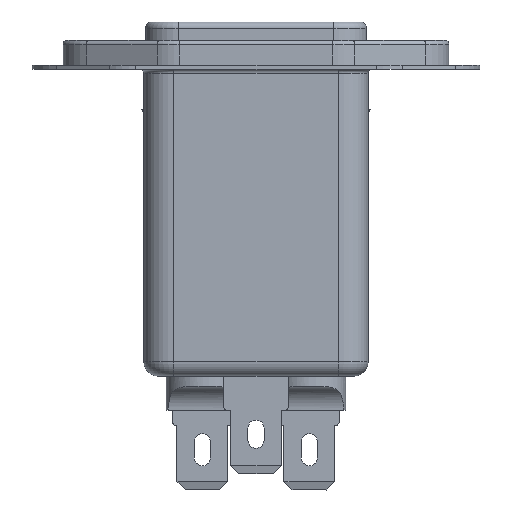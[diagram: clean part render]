
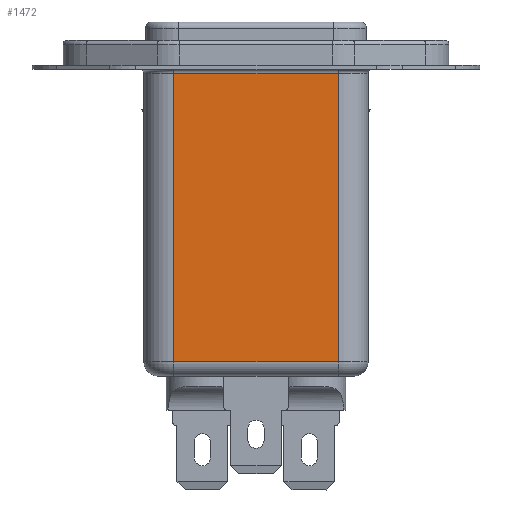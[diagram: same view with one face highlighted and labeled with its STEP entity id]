
A CAD part, left-side view. The second image highlights one B-rep face of the part: STEP entity #1472.
In plain terms, the highlighted planar face has unit normal (-1, 0, 0).
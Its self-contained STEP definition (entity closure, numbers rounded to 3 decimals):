
#1277=CARTESIAN_POINT('',(25.1,53.292,47.8));
#1278=VERTEX_POINT('',#1277);
#1343=CARTESIAN_POINT('',(25.1,32.792,47.8));
#1344=VERTEX_POINT('',#1343);
#1361=CARTESIAN_POINT('',(25.1,53.292,47.8));
#1362=DIRECTION('',(0.0,-1.0,0.0));
#1363=VECTOR('',#1362,20.5);
#1364=LINE('',#1361,#1363);
#1365=EDGE_CURVE('',#1278,#1344,#1364,.T.);
#1442=CARTESIAN_POINT('',(25.1,53.292,48.8));
#1443=DIRECTION('',(-1.0,0.0,0.0));
#1444=DIRECTION('',(0.0,1.0,0.0));
#1445=AXIS2_PLACEMENT_3D('',#1442,#1443,#1444);
#1446=PLANE('',#1445);
#1447=ORIENTED_EDGE('',*,*,#1365,.F.);
#1448=CARTESIAN_POINT('',(25.1,53.292,11.95));
#1449=VERTEX_POINT('',#1448);
#1450=CARTESIAN_POINT('',(25.1,53.292,47.8));
#1451=DIRECTION('',(0.0,0.0,-1.0));
#1452=VECTOR('',#1451,35.85);
#1453=LINE('',#1450,#1452);
#1454=EDGE_CURVE('',#1278,#1449,#1453,.T.);
#1455=ORIENTED_EDGE('',*,*,#1454,.T.);
#1456=CARTESIAN_POINT('',(25.1,32.792,11.95));
#1457=VERTEX_POINT('',#1456);
#1458=CARTESIAN_POINT('',(25.1,32.792,11.95));
#1459=DIRECTION('',(0.0,1.0,0.0));
#1460=VECTOR('',#1459,20.5);
#1461=LINE('',#1458,#1460);
#1462=EDGE_CURVE('',#1457,#1449,#1461,.T.);
#1463=ORIENTED_EDGE('',*,*,#1462,.F.);
#1464=CARTESIAN_POINT('',(25.1,32.792,47.8));
#1465=DIRECTION('',(0.0,0.0,-1.0));
#1466=VECTOR('',#1465,35.85);
#1467=LINE('',#1464,#1466);
#1468=EDGE_CURVE('',#1344,#1457,#1467,.T.);
#1469=ORIENTED_EDGE('',*,*,#1468,.F.);
#1470=EDGE_LOOP('',(#1447,#1455,#1463,#1469));
#1471=FACE_OUTER_BOUND('',#1470,.T.);
#1472=ADVANCED_FACE('',(#1471),#1446,.T.);
